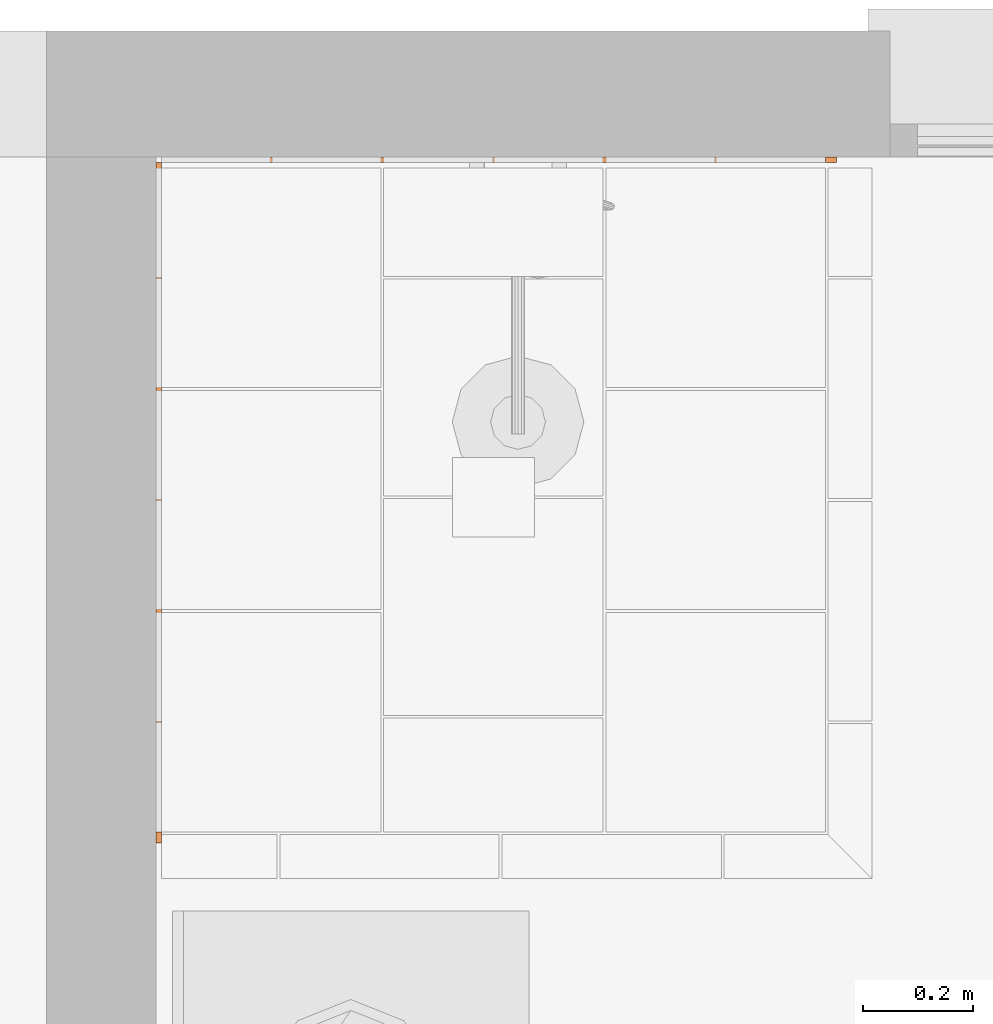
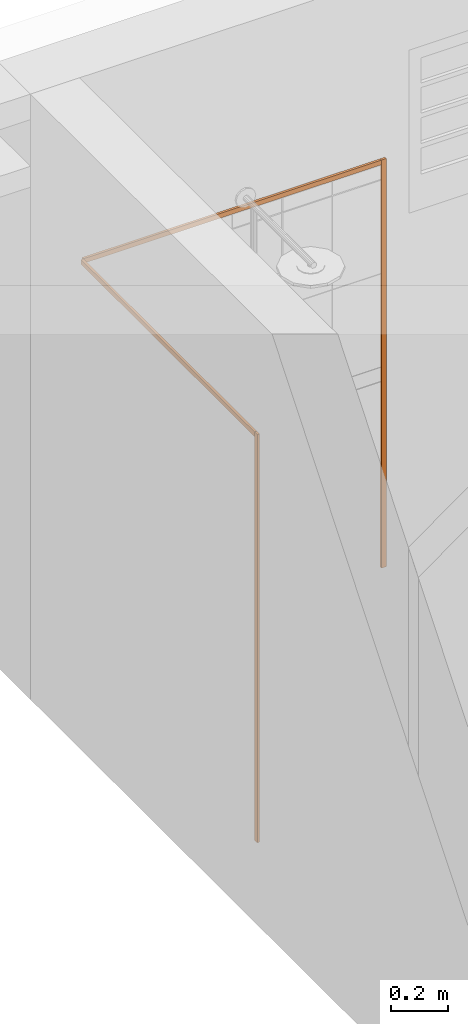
# One storey, part 10 of 13: 4 proxies.
"""IFC2X3 building model written with IfcOpenShell, lengths in metres."""

from ifc_helpers import new_model, entity, si_unit, converted_unit, derived_unit, money_unit, direction, frame, origin_with_axes, place, context, subcontext, project, spatial, faceted_brep, source, transform, mapped, material, type_object, element, save


model = new_model("IFC2X3")

# Units and contexts
model_context = context("Model", 3, precision=1e-05, world=origin_with_axes(), true_north=direction((0.0, 1.0)))
body_context = subcontext(model_context, "Body", "Model", "MODEL_VIEW")
ifc_project = project(units=[si_unit("LENGTHUNIT", "METRE"), si_unit("AREAUNIT", "SQUARE_METRE"), si_unit("VOLUMEUNIT", "CUBIC_METRE"), converted_unit("PLANEANGLEUNIT", "DEGREE", entity("IfcPlaneAngleMeasure", 0.0174532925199), si_unit("PLANEANGLEUNIT", "RADIAN"), dimensions=[0, 0, 0, 0, 0, 0, 0]), si_unit("SOLIDANGLEUNIT", "STERADIAN"), money_unit("CHF"), converted_unit("TIMEUNIT", "Year", entity("IfcTimeMeasure", 31556926.0), si_unit("TIMEUNIT", "SECOND"), dimensions=[0, 0, 1, 0, 0, 0, 0]), si_unit("MASSUNIT", "GRAM", prefix="KILO"), si_unit("THERMODYNAMICTEMPERATUREUNIT", "DEGREE_CELSIUS"), si_unit("LUMINOUSINTENSITYUNIT", "LUMEN"), si_unit("ENERGYUNIT", "JOULE", prefix="MEGA"), derived_unit("THERMALCONDUCTANCEUNIT", [(si_unit("POWERUNIT", "WATT"), 1), (si_unit("LENGTHUNIT", "METRE"), -1), (si_unit("THERMODYNAMICTEMPERATUREUNIT", "KELVIN"), -1)]), derived_unit("SPECIFICHEATCAPACITYUNIT", [(si_unit("ENERGYUNIT", "JOULE"), 1), (si_unit("MASSUNIT", "GRAM", prefix="KILO"), -1), (si_unit("THERMODYNAMICTEMPERATUREUNIT", "KELVIN"), -1)]), derived_unit("MASSDENSITYUNIT", [(si_unit("MASSUNIT", "GRAM", prefix="KILO"), 1), (si_unit("VOLUMEUNIT", "CUBIC_METRE"), -1)])], contexts=[model_context])

# Site, building, storey
site_placement = place(None, origin_with_axes())
site = spatial("IfcSite", under=ifc_project, at=site_placement, Name="Site", CompositionType="ELEMENT")
building_placement = place(site_placement, origin_with_axes())
building = spatial("IfcBuilding", under=site, at=building_placement, Name="Bâtiment", CompositionType="ELEMENT")
storey_placement = place(building_placement, origin_with_axes())
storey = spatial("IfcBuildingStorey", under=building, at=storey_placement, Name="SOUS-SOL", CompositionType="ELEMENT", Elevation=0.0)

# Proxies
ifc_material = material(Name="Bois massif")
building_element_proxy_type_1 = type_object("IfcBuildingElementProxyType", Name="Poteau 1 24", PredefinedType="NOTDEFINED")
shared_shape = source(origin_with_axes(), body_context, "Body", "Brep", [
    faceted_brep([(-0.01, 0.005, 0.0), (0.01, 0.005, 0.0), (0.01, -0.005, 0.0), (-0.01, -0.005, 0.0), (-0.01, 0.005, 1.753), (0.01, 0.005, 1.753), (0.01, -0.005, 1.753), (-0.01, -0.005, 1.753)], [[[0, 1, 2, 3]], [[0, 4, 5, 1]], [[1, 5, 6, 2]], [[3, 2, 6, 7]], [[4, 0, 3, 7]], [[5, 4, 7, 6]]]),
])
for number, where, z_axis, x_axis, name in (
    (1, (90.5355190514, 18.5753410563, -2.718), (0.0, 0.0, 1.0), (1.0, 0.0, 0.0), "MOBILIER-0021"),
    (2, (89.3105190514, 17.3403410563, -2.718), (0.0, 0.0, 1.0), (0.0, 1.0, 0.0), "MOBILIER-0021"),
):
    element("IfcBuildingElementProxy", number, at=place(storey_placement, frame(where, z_axis=z_axis, x_axis=x_axis)), inside=storey, type_object=building_element_proxy_type_1, material=ifc_material, Name=name, context=body_context, shape_type="MappedRepresentation", body=[
        mapped(shared_shape, transform((0.0, 0.0, 0.0))),
    ])
building_element_proxy_type_2 = type_object("IfcBuildingElementProxyType", Name="Tirant 24", PredefinedType="NOTDEFINED")
proxy_1_placement = place(storey_placement, frame((89.3105190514, 17.9603410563, -0.965), z_axis=(0.0, 0.0, 1.0), x_axis=(0.0, 1.0, 0.0)))
element("IfcBuildingElementProxy", 3, at=proxy_1_placement, inside=storey, type_object=building_element_proxy_type_2, material=ifc_material, Name="MOBILIER-0020", context=body_context, shape_type="Brep", body=[
    faceted_brep([(0.61, 0.005, -0.02), (0.61, 0.005, 0.0), (0.61, -0.005, 0.0), (0.61, -0.005, -0.02), (-0.61, 0.005, -0.02), (-0.61, 0.005, 0.0), (-0.61, -0.005, 0.0), (-0.61, -0.005, -0.02)], [[[0, 1, 2, 3]], [[0, 4, 5, 1]], [[1, 5, 6, 2]], [[3, 2, 6, 7]], [[4, 0, 3, 7]], [[5, 4, 7, 6]]]),
])
proxy_2_placement = place(storey_placement, frame((89.9205190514, 18.5753410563, -0.965), z_axis=(0.0, 0.0, 1.0), x_axis=(1.0, 0.0, 0.0)))
element("IfcBuildingElementProxy", 4, at=proxy_2_placement, inside=storey, type_object=building_element_proxy_type_2, material=ifc_material, Name="MOBILIER-0020", context=body_context, shape_type="Brep", body=[
    faceted_brep([(0.605, 0.005, -0.02), (0.605, 0.005, 0.0), (0.605, -0.005, 0.0), (0.605, -0.005, -0.02), (-0.605, 0.005, -0.02), (-0.605, 0.005, 0.0), (-0.605, -0.005, 0.0), (-0.605, -0.005, -0.02)], [[[0, 1, 2, 3]], [[0, 4, 5, 1]], [[1, 5, 6, 2]], [[3, 2, 6, 7]], [[4, 0, 3, 7]], [[5, 4, 7, 6]]]),
])

save(model, "model.ifc")
